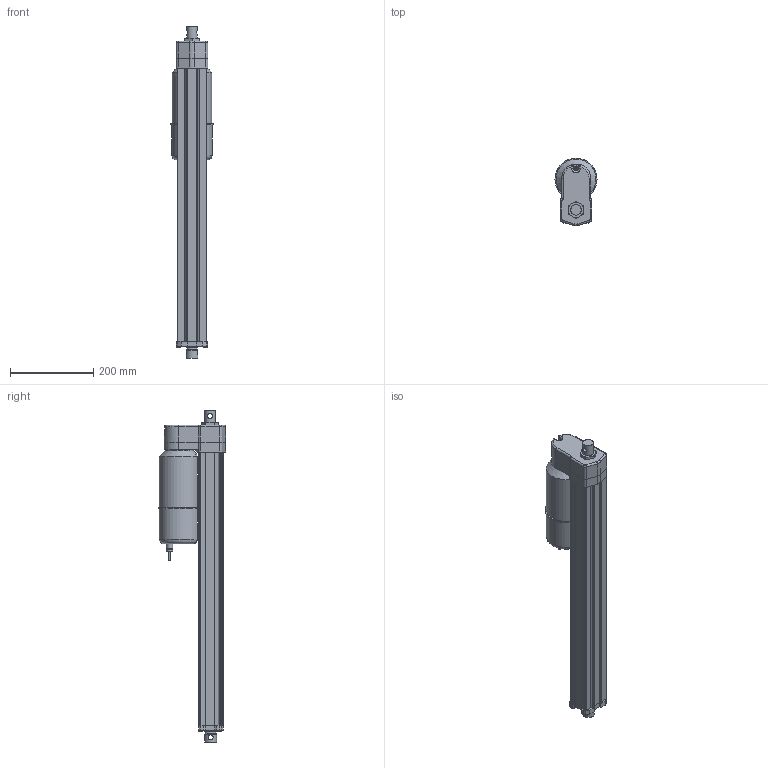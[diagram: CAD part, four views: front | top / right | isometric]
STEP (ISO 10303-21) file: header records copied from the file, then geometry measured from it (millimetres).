
FILE_DESCRIPTION (( 'STEP AP214' ), '1' );
FILE_NAME ('AA22-05B65M-50M0N-tollo.step', '2020-04-14T18:45:58', ( '' ), ( '' ), 'SwSTEP 2.0', 'SolidWorks 2010', '' );
FILE_SCHEMA (( 'AUTOMOTIVE_DESIGN' ));
Length unit declared in the file: millimetre
Products named in the file (8): Electrak-LA24-Motor-AA22-05B65M-50M0N-tollo_Electrak-LA24-Motor-AA22-05B65M-50M0N-tollo; Electrak-LA24-Rear-AA22-05B65M-50M0N-tollo_Electrak-LA24-Rear-AA22-05B65M-50M0N-tollo; Electrak-LA24-Tube-AA22-05B65M-50M0N-tollo_Electrak-LA24-Tube-AA22-05B65M-50M0N-tollo; Electrak-LA24-Rod-AA22-05B65M-50M0N-tollo_Electrak-LA24-Rod-AA22-05B65M-50M0N-tollo; Electrak-LA24-Plate-AA22-05B65M-50M0N-tollo_Electrak-LA24-Plate-AA22-05B65M-50M0N-tollo; Screw-MFX-H-M5_Screw-MFX-H-M5x24H; Screw-M6S-M5-AA22-05B65M-50M0N-tollo_Screw-M6S-M5-AA22-05B65M-50M0N-tollo; AA22-05B65M-50M0N-tollo
Assembly tree (10 placements, depth 2):
  AA22-05B65M-50M0N-tollo
    Electrak-LA24-Motor-AA22-05B65M-50M0N-tollo_Electrak-LA24-Motor-AA22-05B65M-50M0N-tollo
    Screw-M6S-M5-AA22-05B65M-50M0N-tollo_Screw-M6S-M5-AA22-05B65M-50M0N-tollo  x4
    Screw-MFX-H-M5_Screw-MFX-H-M5x24H
    Electrak-LA24-Plate-AA22-05B65M-50M0N-tollo_Electrak-LA24-Plate-AA22-05B65M-50M0N-tollo
    Electrak-LA24-Rod-AA22-05B65M-50M0N-tollo_Electrak-LA24-Rod-AA22-05B65M-50M0N-tollo
    Electrak-LA24-Tube-AA22-05B65M-50M0N-tollo_Electrak-LA24-Tube-AA22-05B65M-50M0N-tollo
    Electrak-LA24-Rear-AA22-05B65M-50M0N-tollo_Electrak-LA24-Rear-AA22-05B65M-50M0N-tollo
Bounding box: 100.99 x 162.5 x 795.7 mm (x, y, z)
Volume: 3196321.3 mm3; surface area: 571974.2 mm2
Topology: 10 solids, 10 shells, 353 faces, 886 edges, 572 vertices
Faces by surface type: plane 174, cylinder 128, cone 31, torus 15, bspline 3, sphere 2
Full cylindrical faces by diameter (mm): 4 x1, 4.126 x5, 4.8 x6, 5 x5, 5.6 x4, 7.878 x4, 9.3 x1, 10 x1, 12.2 x2, 15 x2, 25.4 x1, 28.6 x4, 47.625 x1, 68 x1
Entity records: 9633 total; most frequent: CARTESIAN_POINT 2397, DIRECTION 1446, ORIENTED_EDGE 1338, EDGE_CURVE 669, AXIS2_PLACEMENT_3D 527, VERTEX_POINT 460, LINE 392, VECTOR 392
